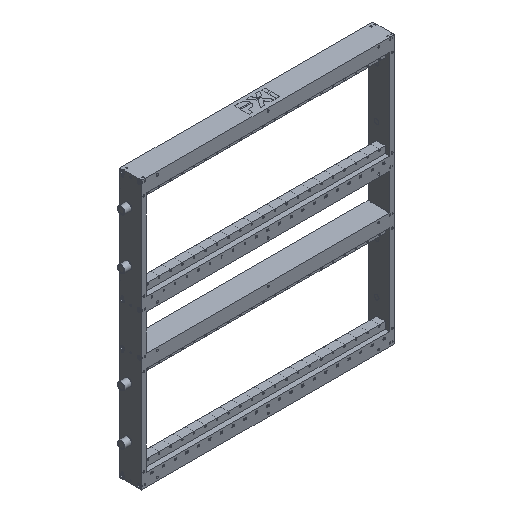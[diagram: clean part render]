
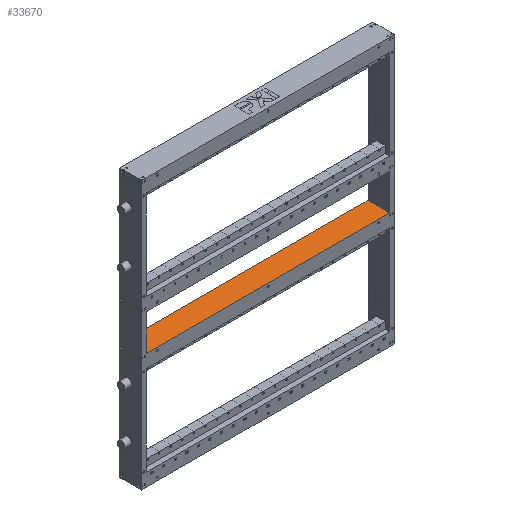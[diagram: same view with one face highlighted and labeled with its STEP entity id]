
A CAD part, isometric view. The second image highlights one B-rep face of the part: STEP entity #33670.
In plain terms, the highlighted planar face has unit normal (0, 0, 1).
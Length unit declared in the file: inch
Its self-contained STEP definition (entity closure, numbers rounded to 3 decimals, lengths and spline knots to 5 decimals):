
#33631=CARTESIAN_POINT('',(17.13,1.5,8.));
#33632=DIRECTION('',(0.0,0.0,1.0));
#33633=DIRECTION('',(0.0,-1.0,0.0));
#33634=AXIS2_PLACEMENT_3D('',#33631,#33632,#33633);
#33635=PLANE('',#33634);
#33636=CARTESIAN_POINT('',(0.33,0.,8.));
#33637=VERTEX_POINT('',#33636);
#33638=CARTESIAN_POINT('',(0.33,1.5,8.));
#33639=VERTEX_POINT('',#33638);
#33640=CARTESIAN_POINT('',(0.33,0.,8.));
#33641=DIRECTION('',(0.0,1.0,0.0));
#33642=VECTOR('',#33641,1.5);
#33643=LINE('',#33640,#33642);
#33644=EDGE_CURVE('',#33637,#33639,#33643,.T.);
#33645=ORIENTED_EDGE('',*,*,#33644,.F.);
#33646=CARTESIAN_POINT('',(17.13,0.,8.));
#33647=VERTEX_POINT('',#33646);
#33648=CARTESIAN_POINT('',(17.13,0.,8.));
#33649=DIRECTION('',(-1.0,0.0,0.0));
#33650=VECTOR('',#33649,16.8);
#33651=LINE('',#33648,#33650);
#33652=EDGE_CURVE('',#33647,#33637,#33651,.T.);
#33653=ORIENTED_EDGE('',*,*,#33652,.F.);
#33654=CARTESIAN_POINT('',(17.13,1.5,8.));
#33655=VERTEX_POINT('',#33654);
#33656=CARTESIAN_POINT('',(17.13,1.5,8.));
#33657=DIRECTION('',(0.0,-1.0,0.0));
#33658=VECTOR('',#33657,1.5);
#33659=LINE('',#33656,#33658);
#33660=EDGE_CURVE('',#33655,#33647,#33659,.T.);
#33661=ORIENTED_EDGE('',*,*,#33660,.F.);
#33662=CARTESIAN_POINT('',(17.13,1.5,8.));
#33663=DIRECTION('',(-1.0,0.0,0.0));
#33664=VECTOR('',#33663,16.8);
#33665=LINE('',#33662,#33664);
#33666=EDGE_CURVE('',#33655,#33639,#33665,.T.);
#33667=ORIENTED_EDGE('',*,*,#33666,.T.);
#33668=EDGE_LOOP('',(#33645,#33653,#33661,#33667));
#33669=FACE_OUTER_BOUND('',#33668,.T.);
#33670=ADVANCED_FACE('',(#33669),#33635,.T.);
